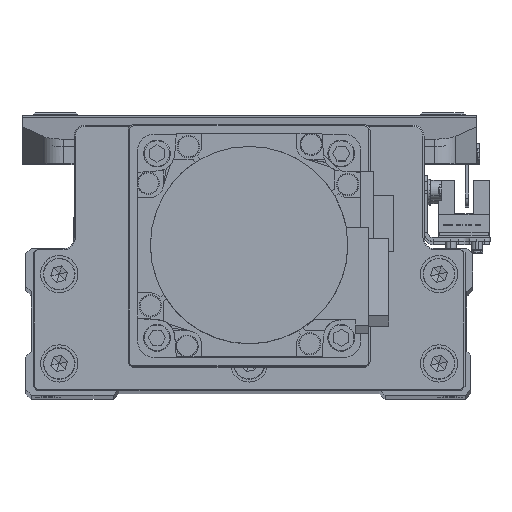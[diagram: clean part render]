
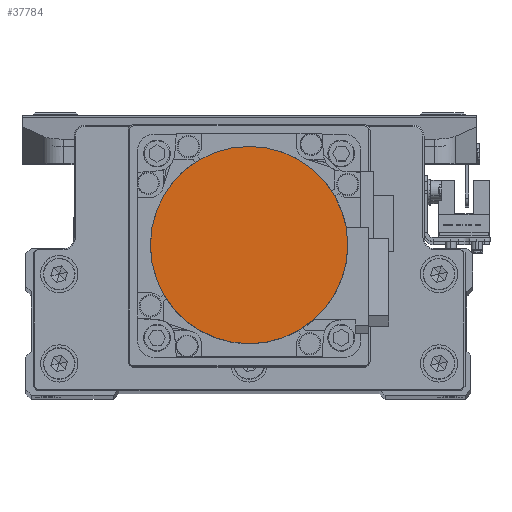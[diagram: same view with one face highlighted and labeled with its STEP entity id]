
A CAD part, top view. The second image highlights one B-rep face of the part: STEP entity #37784.
In plain terms, the highlighted planar face has unit normal (0, 0, 1) as drawn and (0, 0, -1) by its records, which use the part's own axes.
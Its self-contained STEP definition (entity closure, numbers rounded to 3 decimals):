
#5082 = CIRCLE ( 'NONE', #29361, 26.5 ) ;
#5303 = DIRECTION ( 'NONE',  ( 0., 0., 1. ) ) ;
#7150 = CIRCLE ( 'NONE', #31436, 26.5 ) ;
#7536 = VERTEX_POINT ( 'NONE', #34425 ) ;
#7583 = CARTESIAN_POINT ( 'NONE',  ( 0., 0., -109.7 ) ) ;
#7907 = DIRECTION ( 'NONE',  ( 0., 0., 1. ) ) ;
#8554 = FACE_OUTER_BOUND ( 'NONE', #16383, .T. ) ;
#9722 = EDGE_CURVE ( 'NONE', #15703, #7536, #5082, .T. ) ;
#15181 = ORIENTED_EDGE ( 'NONE', *, *, #36723, .F. ) ;
#15703 = VERTEX_POINT ( 'NONE', #22913 ) ;
#16383 = EDGE_LOOP ( 'NONE', ( #15181, #33068 ) ) ;
#18541 = DIRECTION ( 'NONE',  ( 1., 0., 0. ) ) ;
#20836 = DIRECTION ( 'NONE',  ( 0., 0., 1. ) ) ;
#21163 = DIRECTION ( 'NONE',  ( 1., 0., 0. ) ) ;
#21805 = PLANE ( 'NONE',  #41073 ) ;
#22913 = CARTESIAN_POINT ( 'NONE',  ( 26.5, 0., -109.7 ) ) ;
#29361 = AXIS2_PLACEMENT_3D ( 'NONE', #37688, #7907, #21163 ) ;
#31436 = AXIS2_PLACEMENT_3D ( 'NONE', #7583, #20836, #34099 ) ;
#33068 = ORIENTED_EDGE ( 'NONE', *, *, #9722, .F. ) ;
#34099 = DIRECTION ( 'NONE',  ( -1., 0., 0. ) ) ;
#34425 = CARTESIAN_POINT ( 'NONE',  ( -26.5, 0., -109.7 ) ) ;
#35059 = CARTESIAN_POINT ( 'NONE',  ( 0., 0., -109.7 ) ) ;
#36723 = EDGE_CURVE ( 'NONE', #7536, #15703, #7150, .T. ) ;
#37688 = CARTESIAN_POINT ( 'NONE',  ( 0., 0., -109.7 ) ) ;
#37784 = ADVANCED_FACE ( 'NONE', ( #8554 ), #21805, .F. ) ;
#41073 = AXIS2_PLACEMENT_3D ( 'NONE', #35059, #5303, #18541 ) ;
